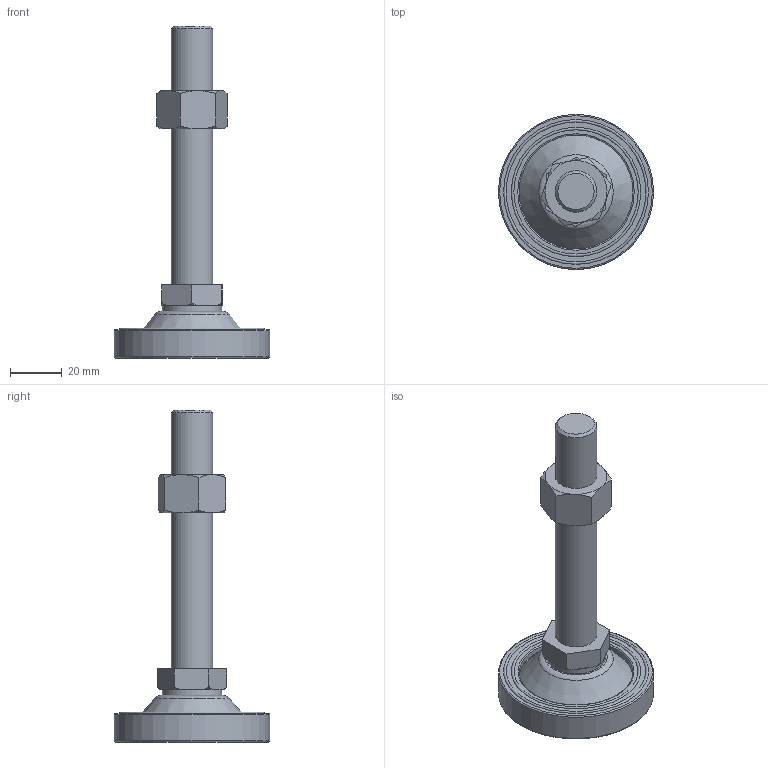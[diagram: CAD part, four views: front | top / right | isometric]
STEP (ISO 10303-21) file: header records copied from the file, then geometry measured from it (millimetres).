
FILE_DESCRIPTION((' '),'2;1');
FILE_NAME('Y:\00. A standard brand\06. 3D Modeling\외부전송용_STEP\LEVELLING FOOT(STEP)\A-PLR SERIES STEP\A-PLR-16-100.stp.stp','2011-11-22T18:39:44',(' '),(' '),' ','ACIS',' ');
FILE_SCHEMA(('CONFIG_CONTROL_DESIGN'));
Length unit declared in the file: millimetre
Products named in the file (1): Y:\00. A standard brand\06. 3D Modeling\외부전송용_STEP\LEVELLING FOOT(STEP)\A-PLR SERIES STEP\A-PLR-16-100.stp.stp
Bounding box: 60 x 60 x 128.31 mm (x, y, z)
Volume: 56831.9 mm3; surface area: 21709 mm2
Topology: 3 solids, 4 shells, 114 faces, 253 edges, 157 vertices
Faces by surface type: plane 55, cylinder 20, cone 17, torus 15, bspline 7
Full cylindrical faces by diameter (mm): 8 x1, 12 x2, 16 x3, 19.27 x1, 23 x1, 31 x1, 44 x2, 60 x1
Entity records: 3375 total; most frequent: CARTESIAN_POINT 973, DIRECTION 476, ORIENTED_EDGE 424, EDGE_CURVE 212, AXIS2_PLACEMENT_3D 192, EDGE_LOOP 160, VERTEX_POINT 149, FACE_OUTER_BOUND 114
